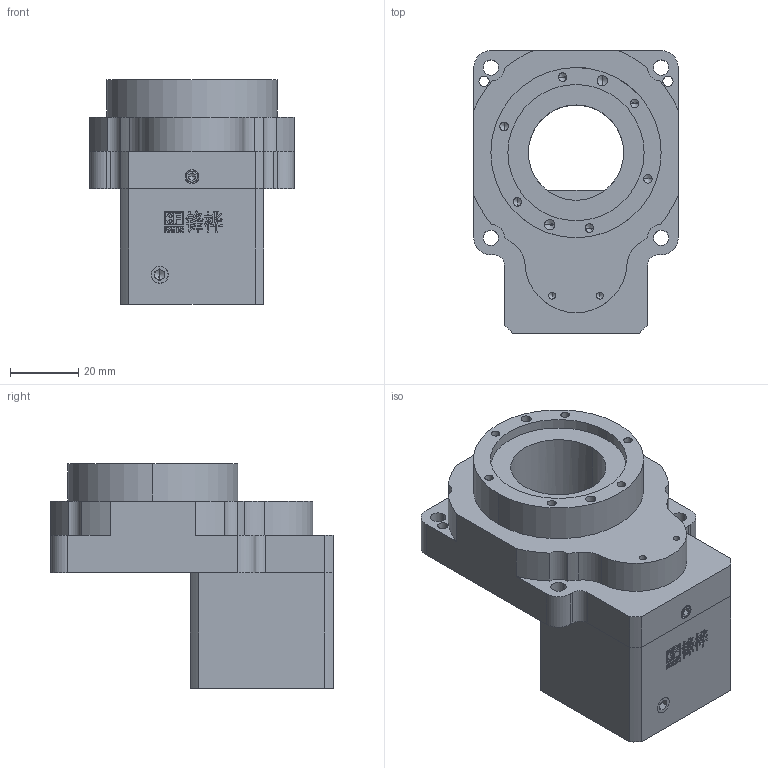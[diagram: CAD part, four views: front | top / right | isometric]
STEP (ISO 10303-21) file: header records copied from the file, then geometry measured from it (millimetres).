
FILE_DESCRIPTION (( 'STEP AP214' ), '1' );
FILE_NAME ('DG060-5.STEP', '2021-04-23T05:12:09', ( 'Microsoft' ), ( 'Microsoft China' ), 'SwSTEP 2.0', 'SolidWorks 2016', '' );
FILE_SCHEMA (( 'AUTOMOTIVE_DESIGN' ));
Length unit declared in the file: millimetre
Products named in the file (1): DG060-5
Bounding box: 60 x 83 x 66 mm (x, y, z)
Volume: 132745.9 mm3; surface area: 37299.5 mm2
Topology: 14 solids, 14 shells, 1200 faces, 3259 edges, 2098 vertices
Faces by surface type: plane 831, cylinder 180, cone 109, bspline 80
Entity records: 39422 total; most frequent: CARTESIAN_POINT 7902, ORIENTED_EDGE 6398, DIRECTION 5847, EDGE_CURVE 3199, LINE 2433, VECTOR 2433, VERTEX_POINT 2098, AXIS2_PLACEMENT_3D 1707
